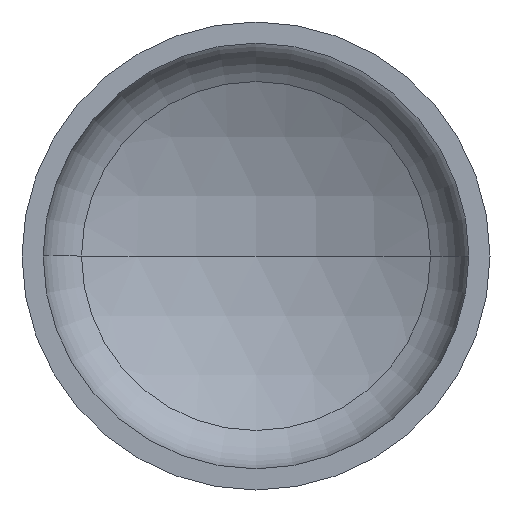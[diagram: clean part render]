
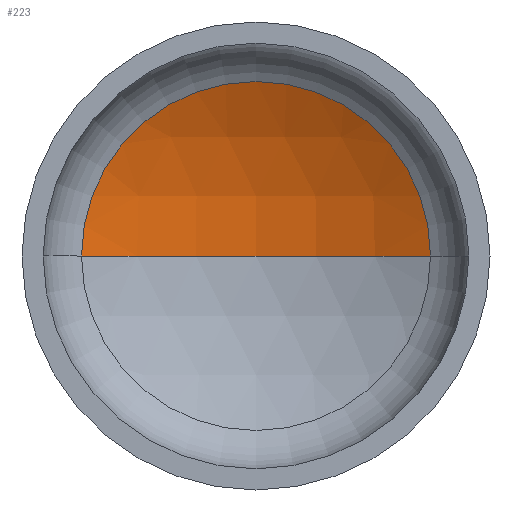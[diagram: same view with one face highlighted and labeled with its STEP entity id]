
A CAD part, front view. The second image highlights one B-rep face of the part: STEP entity #223.
In plain terms, the highlighted spherical face has radius 406 mm.
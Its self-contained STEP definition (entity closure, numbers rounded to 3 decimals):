
#2 = AXIS2_PLACEMENT_3D ( 'NONE', #169, #351, #203 ) ;
#15 = DIRECTION ( 'NONE',  ( -1., 0., 0. ) ) ;
#20 = EDGE_LOOP ( 'NONE', ( #138, #32, #108 ) ) ;
#28 = AXIS2_PLACEMENT_3D ( 'NONE', #190, #325, #160 ) ;
#32 = ORIENTED_EDGE ( 'NONE', *, *, #392, .T. ) ;
#54 = AXIS2_PLACEMENT_3D ( 'NONE', #186, #363, #15 ) ;
#108 = ORIENTED_EDGE ( 'NONE', *, *, #353, .T. ) ;
#124 = VERTEX_POINT ( 'NONE', #299 ) ;
#137 = VERTEX_POINT ( 'NONE', #298 ) ;
#138 = ORIENTED_EDGE ( 'NONE', *, *, #384, .F. ) ;
#153 = SPHERICAL_SURFACE ( 'NONE', #54, 406. ) ;
#160 = DIRECTION ( 'NONE',  ( 1., 0., 0. ) ) ;
#169 = CARTESIAN_POINT ( 'NONE',  ( 0., -220.129, 0. ) ) ;
#186 = CARTESIAN_POINT ( 'NONE',  ( 0., -220.129, 0. ) ) ;
#188 = VERTEX_POINT ( 'NONE', #286 ) ;
#190 = CARTESIAN_POINT ( 'NONE',  ( 0., 138.994, 0. ) ) ;
#194 = DIRECTION ( 'NONE',  ( -1., 0., 0. ) ) ;
#203 = DIRECTION ( 'NONE',  ( 1., 0., 0. ) ) ;
#204 = AXIS2_PLACEMENT_3D ( 'NONE', #250, #409, #194 ) ;
#223 = ADVANCED_FACE ( 'NONE', ( #354 ), #153, .F. ) ;
#244 = CIRCLE ( 'NONE', #204, 406. ) ;
#250 = CARTESIAN_POINT ( 'NONE',  ( 0., -220.129, 0. ) ) ;
#286 = CARTESIAN_POINT ( 'NONE',  ( -189.384, 138.994, 0. ) ) ;
#298 = CARTESIAN_POINT ( 'NONE',  ( 0., 185.871, 0. ) ) ;
#299 = CARTESIAN_POINT ( 'NONE',  ( 189.384, 138.994, 0. ) ) ;
#314 = CIRCLE ( 'NONE', #2, 406. ) ;
#325 = DIRECTION ( 'NONE',  ( 0., -1., 0. ) ) ;
#326 = CIRCLE ( 'NONE', #28, 189.384 ) ;
#351 = DIRECTION ( 'NONE',  ( 0., 0., 1. ) ) ;
#353 = EDGE_CURVE ( 'NONE', #124, #188, #326, .T. ) ;
#354 = FACE_OUTER_BOUND ( 'NONE', #20, .T. ) ;
#363 = DIRECTION ( 'NONE',  ( 0., 0., -1. ) ) ;
#384 = EDGE_CURVE ( 'NONE', #137, #188, #314, .T. ) ;
#392 = EDGE_CURVE ( 'NONE', #137, #124, #244, .T. ) ;
#409 = DIRECTION ( 'NONE',  ( 0., 0., -1. ) ) ;
